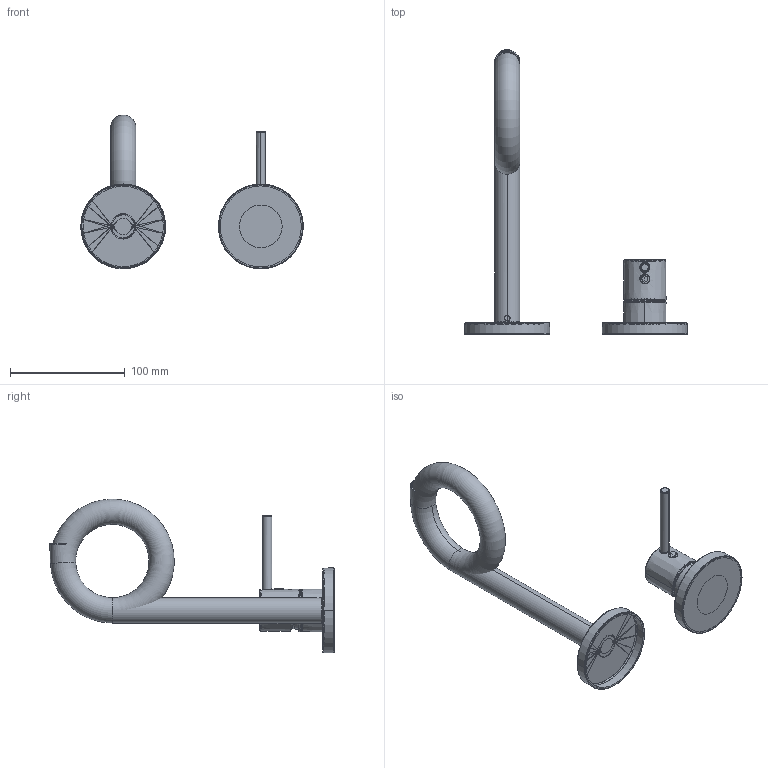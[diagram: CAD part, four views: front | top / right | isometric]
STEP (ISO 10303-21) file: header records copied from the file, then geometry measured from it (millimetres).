
FILE_DESCRIPTION((''),'2;1');
FILE_NAME('26230002_S','2024-04-30T15:54:04',('lpuig'),('TRES'),'CREO PARAMETRIC BY PTC INC, 2018260','CREO PARAMETRIC BY PTC INC, 2018260','');
FILE_SCHEMA(('CONFIG_CONTROL_DESIGN'));
Products named in the file (1): 26230002_S
Bounding box: 193.99 x 247.98 x 133.96 mm (x, y, z)
Surface area: 98791.9 mm2 (no closed solid volume)
Topology: 0 solids, 0 shells, 508 faces, 3133 edges, 3084 vertices
Faces by surface type: cylinder 270, plane 126, torus 48, bspline 37, cone 19, sphere 8
Entity records: 45932 total; most frequent: CARTESIAN_POINT 18604, DIRECTION 4877, TRIMMED_CURVE 3293, DEFINITIONAL_REPRESENTATION 3035, PCURVE 3035, COMPOSITE_CURVE_SEGMENT 3035, VECTOR 2651, LINE 2651
